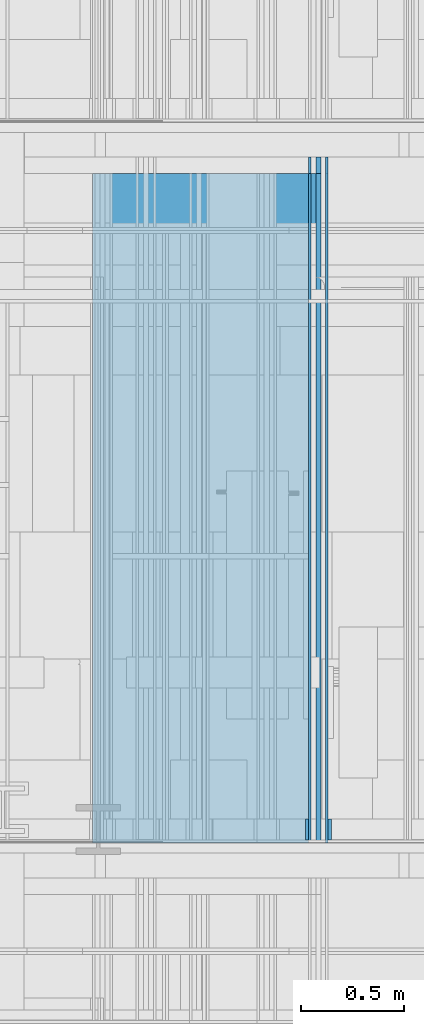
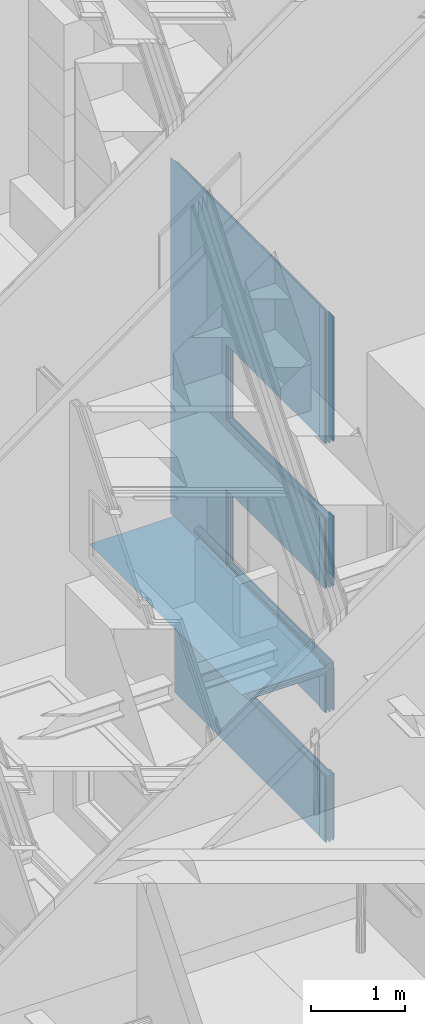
# One storey, part 110 of 583: 17 building element parts, 5 openings, 3 elements without a shape of their own.
"""IFC2X3 building model written with IfcOpenShell, lengths in metres."""

from ifc_helpers import new_model, entity, si_unit, converted_unit, derived_unit, money_unit, direction, frame, frame_2d, origin_with_axes, place, context, subcontext, project, spatial, polyline, rectangle, outline, extrude, material, type_object, element, aggregate, save


model = new_model("IFC2X3")

# Units and contexts
model_context = context("Model", 3, precision=1e-05, world=origin_with_axes(), true_north=direction((0.0, 1.0)))
body_context = subcontext(model_context, "Body", "Model", "MODEL_VIEW", scale=1.0)
ifc_project = project(units=[si_unit("LENGTHUNIT", "METRE"), si_unit("AREAUNIT", "SQUARE_METRE"), si_unit("VOLUMEUNIT", "CUBIC_METRE"), si_unit("ABSORBEDDOSEUNIT", "GRAY"), si_unit("AMOUNTOFSUBSTANCEUNIT", "MOLE"), si_unit("DOSEEQUIVALENTUNIT", "SIEVERT"), si_unit("ELECTRICCAPACITANCEUNIT", "FARAD"), si_unit("ELECTRICCHARGEUNIT", "COULOMB"), si_unit("ELECTRICCONDUCTANCEUNIT", "SIEMENS"), si_unit("ELECTRICCURRENTUNIT", "AMPERE"), si_unit("ELECTRICRESISTANCEUNIT", "OHM"), si_unit("ELECTRICVOLTAGEUNIT", "VOLT"), si_unit("ENERGYUNIT", "JOULE"), si_unit("FORCEUNIT", "NEWTON"), si_unit("FREQUENCYUNIT", "HERTZ"), si_unit("ILLUMINANCEUNIT", "LUX"), si_unit("INDUCTANCEUNIT", "HENRY"), si_unit("LUMINOUSFLUXUNIT", "LUMEN"), si_unit("LUMINOUSINTENSITYUNIT", "CANDELA"), si_unit("MAGNETICFLUXDENSITYUNIT", "TESLA"), si_unit("MAGNETICFLUXUNIT", "WEBER"), si_unit("MASSUNIT", "GRAM"), converted_unit("PLANEANGLEUNIT", "degree", entity("IfcReal", 0.0174532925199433), si_unit("PLANEANGLEUNIT", "RADIAN"), dimensions=[0, 0, 0, 0, 0, 0, 0]), si_unit("POWERUNIT", "WATT"), si_unit("PRESSUREUNIT", "PASCAL"), si_unit("RADIOACTIVITYUNIT", "BECQUEREL"), si_unit("SOLIDANGLEUNIT", "STERADIAN"), si_unit("THERMODYNAMICTEMPERATUREUNIT", "KELVIN"), si_unit("TIMEUNIT", "SECOND"), derived_unit("ACCELERATIONUNIT", [(si_unit("LENGTHUNIT", "METRE"), 1), (si_unit("TIMEUNIT", "SECOND"), -2)]), derived_unit("ANGULARVELOCITYUNIT", [(converted_unit("PLANEANGLEUNIT", "degree", entity("IfcReal", 0.0174532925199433), si_unit("PLANEANGLEUNIT", "RADIAN"), dimensions=[0, 0, 0, 0, 0, 0, 0]), 1), (si_unit("TIMEUNIT", "SECOND"), -1)]), derived_unit("CURVATUREUNIT", [(converted_unit("PLANEANGLEUNIT", "degree", entity("IfcReal", 0.0174532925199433), si_unit("PLANEANGLEUNIT", "RADIAN"), dimensions=[0, 0, 0, 0, 0, 0, 0]), 1), (si_unit("LENGTHUNIT", "METRE"), -1)]), derived_unit("DYNAMICVISCOSITYUNIT", [(si_unit("PRESSUREUNIT", "PASCAL"), 1), (si_unit("TIMEUNIT", "SECOND"), 1)]), derived_unit("HEATFLUXDENSITYUNIT", [(si_unit("POWERUNIT", "WATT"), 1), (si_unit("LENGTHUNIT", "METRE"), -2)]), derived_unit("HEATINGVALUEUNIT", [(si_unit("ENERGYUNIT", "JOULE"), 1), (si_unit("MASSUNIT", "GRAM"), -1)]), derived_unit("INTEGERCOUNTRATEUNIT", [(si_unit("TIMEUNIT", "SECOND"), -1)]), derived_unit("IONCONCENTRATIONUNIT", [(si_unit("MASSUNIT", "GRAM"), 1), (si_unit("VOLUMEUNIT", "CUBIC_METRE"), -1)]), derived_unit("ISOTHERMALMOISTURECAPACITYUNIT", [(si_unit("VOLUMEUNIT", "CUBIC_METRE"), 1), (si_unit("MASSUNIT", "GRAM"), -1)]), derived_unit("KINEMATICVISCOSITYUNIT", [(si_unit("AREAUNIT", "SQUARE_METRE"), 1), (si_unit("TIMEUNIT", "SECOND"), -1)]), derived_unit("LINEARFORCEUNIT", [(si_unit("FORCEUNIT", "NEWTON"), 1), (si_unit("LENGTHUNIT", "METRE"), -1)]), derived_unit("LINEARMOMENTUNIT", [(si_unit("FORCEUNIT", "NEWTON"), 1), (si_unit("LENGTHUNIT", "METRE"), -1)]), derived_unit("LINEARSTIFFNESSUNIT", [(si_unit("FORCEUNIT", "NEWTON"), 1), (si_unit("LENGTHUNIT", "METRE"), -1)]), derived_unit("LINEARVELOCITYUNIT", [(si_unit("LENGTHUNIT", "METRE"), 1), (si_unit("TIMEUNIT", "SECOND"), -1)]), derived_unit("LUMINOUSINTENSITYDISTRIBUTIONUNIT", [(si_unit("LUMINOUSINTENSITYUNIT", "CANDELA"), 1), (si_unit("LUMINOUSFLUXUNIT", "LUMEN"), -1)]), derived_unit("MASSDENSITYUNIT", [(si_unit("MASSUNIT", "GRAM"), 1), (si_unit("VOLUMEUNIT", "CUBIC_METRE"), -1)]), derived_unit("MASSFLOWRATEUNIT", [(si_unit("MASSUNIT", "GRAM"), 1), (si_unit("TIMEUNIT", "SECOND"), -1)]), derived_unit("MASSPERLENGTHUNIT", [(si_unit("MASSUNIT", "GRAM"), 1), (si_unit("LENGTHUNIT", "METRE"), -1)]), derived_unit("MODULUSOFELASTICITYUNIT", [(si_unit("FORCEUNIT", "NEWTON"), 1), (si_unit("AREAUNIT", "SQUARE_METRE"), -1)]), derived_unit("MODULUSOFLINEARSUBGRADEREACTIONUNIT", [(si_unit("FORCEUNIT", "NEWTON"), 1), (si_unit("LENGTHUNIT", "METRE"), -2)]), derived_unit("MODULUSOFROTATIONALSUBGRADEREACTIONUNIT", [(si_unit("FORCEUNIT", "NEWTON"), 1), (si_unit("LENGTHUNIT", "METRE"), 1)]), derived_unit("MODULUSOFSUBGRADEREACTIONUNIT", [(si_unit("FORCEUNIT", "NEWTON"), 1), (si_unit("VOLUMEUNIT", "CUBIC_METRE"), -1)]), derived_unit("MOISTUREDIFFUSIVITYUNIT", [(si_unit("VOLUMEUNIT", "CUBIC_METRE"), 1), (si_unit("TIMEUNIT", "SECOND"), -1)]), derived_unit("MOLECULARWEIGHTUNIT", [(si_unit("MASSUNIT", "GRAM"), 1), (si_unit("AMOUNTOFSUBSTANCEUNIT", "MOLE"), -1)]), derived_unit("PLANARFORCEUNIT", [(si_unit("FORCEUNIT", "NEWTON"), 1), (si_unit("LENGTHUNIT", "METRE"), -2)]), derived_unit("ROTATIONALFREQUENCYUNIT", [(si_unit("TIMEUNIT", "SECOND"), -1)]), derived_unit("ROTATIONALMASSUNIT", [(si_unit("MASSUNIT", "GRAM"), 1), (si_unit("LENGTHUNIT", "METRE"), 2)]), derived_unit("ROTATIONALSTIFFNESSUNIT", [(si_unit("FORCEUNIT", "NEWTON"), 1), (si_unit("LENGTHUNIT", "METRE"), 1), (converted_unit("PLANEANGLEUNIT", "degree", entity("IfcReal", 0.0174532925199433), si_unit("PLANEANGLEUNIT", "RADIAN"), dimensions=[0, 0, 0, 0, 0, 0, 0]), -1)]), derived_unit("SECTIONAREAINTEGRALUNIT", [(si_unit("LENGTHUNIT", "METRE"), 5)]), derived_unit("SECTIONMODULUSUNIT", [(si_unit("LENGTHUNIT", "METRE"), 3)]), derived_unit("SHEARMODULUSUNIT", [(si_unit("FORCEUNIT", "NEWTON"), 1), (si_unit("AREAUNIT", "SQUARE_METRE"), -1)]), derived_unit("SOUNDPOWERUNIT", [(si_unit("ENERGYUNIT", "JOULE"), 1), (si_unit("TIMEUNIT", "SECOND"), -1)]), derived_unit("SPECIFICHEATCAPACITYUNIT", [(si_unit("FORCEUNIT", "NEWTON"), 1), (si_unit("MASSUNIT", "GRAM"), -1), (si_unit("THERMODYNAMICTEMPERATUREUNIT", "KELVIN"), -1)]), derived_unit("TEMPERATUREGRADIENTUNIT", [(si_unit("THERMODYNAMICTEMPERATUREUNIT", "KELVIN"), 1), (si_unit("LENGTHUNIT", "METRE"), -1)]), derived_unit("THERMALADMITTANCEUNIT", [(si_unit("POWERUNIT", "WATT"), 1), (si_unit("AREAUNIT", "SQUARE_METRE"), -1), (si_unit("THERMODYNAMICTEMPERATUREUNIT", "KELVIN"), -1)]), derived_unit("THERMALCONDUCTANCEUNIT", [(si_unit("POWERUNIT", "WATT"), 1), (si_unit("LENGTHUNIT", "METRE"), -1), (si_unit("THERMODYNAMICTEMPERATUREUNIT", "KELVIN"), -1)]), derived_unit("THERMALEXPANSIONCOEFFICIENTUNIT", [(si_unit("THERMODYNAMICTEMPERATUREUNIT", "KELVIN"), -1)]), derived_unit("THERMALRESISTANCEUNIT", [(si_unit("AREAUNIT", "SQUARE_METRE"), 1), (si_unit("POWERUNIT", "WATT"), -1)]), derived_unit("THERMALTRANSMITTANCEUNIT", [(si_unit("POWERUNIT", "WATT"), 1), (si_unit("AREAUNIT", "SQUARE_METRE"), -1), (si_unit("THERMODYNAMICTEMPERATUREUNIT", "KELVIN"), -1)]), derived_unit("TORQUEUNIT", [(si_unit("FORCEUNIT", "NEWTON"), 1), (si_unit("LENGTHUNIT", "METRE"), 1)]), derived_unit("VAPORPERMEABILITYUNIT", [(si_unit("MASSUNIT", "GRAM"), 1), (si_unit("TIMEUNIT", "SECOND"), -1)]), derived_unit("VOLUMETRICFLOWRATEUNIT", [(si_unit("VOLUMEUNIT", "CUBIC_METRE"), 1), (si_unit("TIMEUNIT", "SECOND"), -1)]), derived_unit("WARPINGCONSTANTUNIT", [(si_unit("LENGTHUNIT", "METRE"), 6)]), derived_unit("WARPINGMOMENTUNIT", [(si_unit("FORCEUNIT", "NEWTON"), 1), (si_unit("LENGTHUNIT", "METRE"), 2)]), money_unit("GBP")], contexts=[model_context])

# Site, building, storey
site_placement = place(None, origin_with_axes())
site = spatial("IfcSite", under=ifc_project, at=site_placement, Name="Site", CompositionType="ELEMENT")
building_placement = place(site_placement, origin_with_axes())
building = spatial("IfcBuilding", under=site, at=building_placement, Name="Building01", CompositionType="ELEMENT")
storey_placement = place(building_placement, frame((0.0, 0.0, 20.78), z_axis=(0.0, 0.0, 1.0), x_axis=(1.0, 0.0, 0.0)))
storey = spatial("IfcBuildingStorey", under=building, at=storey_placement, Name="RL", CompositionType="ELEMENT", Elevation=20.78)

# Wall, opening, building element parts
wall_type = type_object("IfcWallType", Name="SHE_A-Walls_Type05a_Partition_95mm_tall", PredefinedType="NOTDEFINED")
wall_1_placement = place(storey_placement, frame((10.63, 8.64, -2.84), z_axis=(0.0, 1.0, 0.0), x_axis=(0.0, 0.0, -1.0)))
wall_1 = element("IfcWall", 1, at=wall_1_placement, inside=storey, type_object=wall_type, Name="5A", ObjectType="SHE_A-Walls_Type05a_Partition_95mm_tall")
opening_1_placement = place(wall_1_placement, frame((0.540552, -0.035, 0.0), z_axis=(0.0, 0.0, 1.0), x_axis=(1.0, 0.0, 0.0)))
element("IfcOpeningElement", 2, at=opening_1_placement, cuts=wall_1, Name="Opening", ObjectType="Opening", context=body_context, shape_type="SweptSolid", body=[
    extrude(rectangle(XDim=2.142, YDim=0.834, at=frame_2d((0.417, 1.071), x_axis=(0.0, -1.0))), frame((0.0, 4.32825, 0.0), z_axis=(0.0, -1.0, 0.0), x_axis=(1.0, 0.0, 0.0)), (0.0, 0.0, 1.0), 8.6565),
])
ifc_material_1 = material(Name="A_BSUK_Insulation")
placement_1 = place(wall_1_placement, origin_with_axes())
building_element_part_1 = element("IfcBuildingElementPart", 3, at=placement_1, material=ifc_material_1, Name="1", context=body_context, shape_type="SweptSolid", body=[
    extrude(rectangle(XDim=2.231868, YDim=0.025, at=frame_2d((1.115934, 0.0125), x_axis=(-1.0, 0.0))), origin_with_axes(), (0.0, 0.0, 1.0), 3.24),
])
ifc_material_2 = material(Name="A_BSUK_Walls_Timber")
building_element_part_2 = element("IfcBuildingElementPart", 4, at=placement_1, material=ifc_material_2, Name="2", context=body_context, shape_type="SweptSolid", body=[
    extrude(rectangle(XDim=2.181868, YDim=0.015, at=frame_2d((1.125934, 0.0675), x_axis=(-1.0, 0.0))), frame((0.0, 0.0, 0.015), z_axis=(0.0, 0.0, 1.0), x_axis=(1.0, 0.0, 0.0)), (0.0, 0.0, 1.0), 0.1),
])
building_element_part_3 = element("IfcBuildingElementPart", 5, at=placement_1, material=ifc_material_2, Name="3", context=body_context, shape_type="SweptSolid", body=[
    extrude(rectangle(XDim=2.216868, YDim=0.015, at=frame_2d((1.108434, -0.0425), x_axis=(-1.0, 0.0))), frame((0.0, 0.0, 0.015), z_axis=(0.0, 0.0, 1.0), x_axis=(1.0, 0.0, 0.0)), (0.0, 0.0, 1.0), 0.1),
])
ifc_material_3 = material(Name="A_BSUK_WallInternal_Finishes_Plasterboard")
building_element_part_4 = element("IfcBuildingElementPart", 6, at=placement_1, material=ifc_material_3, Name="4", context=body_context, shape_type="SweptSolid", body=[
    extrude(rectangle(XDim=2.208868, YDim=0.012, at=frame_2d((1.127434, 0.054), x_axis=(-1.0, 0.0))), origin_with_axes(), (0.0, 0.0, 1.0), 3.24),
])
building_element_part_5 = element("IfcBuildingElementPart", 7, at=placement_1, material=ifc_material_3, Name="5", context=body_context, shape_type="SweptSolid", body=[
    extrude(rectangle(XDim=2.231868, YDim=0.012, at=frame_2d((1.115934, -0.029), x_axis=(-1.0, 0.0))), origin_with_axes(), (0.0, 0.0, 1.0), 3.24),
])
aggregate(wall_1, [building_element_part_1, building_element_part_2, building_element_part_3, building_element_part_4, building_element_part_5])

# Wall, building element parts
wall_2_placement = place(storey_placement, frame((9.585, 8.64, -2.84), z_axis=(0.0, 1.0, 0.0), x_axis=(1.0, 0.0, 0.0)))
wall_2 = element("IfcWall", 8, at=wall_2_placement, inside=storey, type_object=wall_type, Name="5A", ObjectType="SHE_A-Walls_Type05a_Partition_95mm_tall")
placement_2 = place(wall_2_placement, origin_with_axes())
building_element_part_6 = element("IfcBuildingElementPart", 9, at=placement_2, material=ifc_material_1, Name="1", context=body_context, shape_type="SweptSolid", body=[
    extrude(outline(polyline([(1.02, 0.0), (0.0, 0.0), (-0.025, -0.025), (1.02, -0.025), (1.02, 0.0)])), origin_with_axes(), (0.0, 0.0, 1.0), 3.24),
])
building_element_part_7 = element("IfcBuildingElementPart", 10, at=placement_2, material=ifc_material_3, Name="4", context=body_context, shape_type="SweptSolid", body=[
    extrude(outline(polyline([(0.985, 0.035), (0.035, 0.035), (0.023, 0.023), (0.985, 0.023), (0.985, 0.035)])), origin_with_axes(), (0.0, 0.0, 1.0), 3.24),
])
building_element_part_8 = element("IfcBuildingElementPart", 11, at=placement_2, material=ifc_material_3, Name="5", context=body_context, shape_type="SweptSolid", body=[
    extrude(outline(polyline([(0.985, -0.048), (-0.048, -0.048), (-0.06, -0.06), (0.985, -0.06), (0.985, -0.048)])), origin_with_axes(), (0.0, 0.0, 1.0), 3.24),
])
aggregate(wall_2, [building_element_part_6, building_element_part_7, building_element_part_8])

# Wall, openings, building element parts
wall_3_placement = place(storey_placement, frame((10.605, 8.64, -2.84), z_axis=(0.0, 1.0, 0.0), x_axis=(0.0, 0.0, 1.0)))
wall_3 = element("IfcWall", 12, at=wall_3_placement, inside=storey, type_object=wall_type, Name="5A", ObjectType="SHE_A-Walls_Type05a_Partition_95mm_tall")
opening_2_placement = place(wall_3_placement, frame((0.093398, 0.005, -0.015), z_axis=(0.0, 0.0, 1.0), x_axis=(1.0, 0.0, 0.0)))
element("IfcOpeningElement", 13, at=opening_2_placement, cuts=wall_3, Name="Opening", ObjectType="Opening", context=body_context, shape_type="SweptSolid", body=[
    extrude(rectangle(XDim=0.984, YDim=2.142, at=frame_2d((-0.492, 1.071), x_axis=(1.0, 0.0))), frame((0.0, -0.03, 0.0), z_axis=(0.0, 1.0, 0.0), x_axis=(-1.0, 0.0, 0.0)), (0.0, 0.0, 1.0), 0.06),
])
opening_3_placement = place(wall_3_placement, frame((1.978284, 0.005, -0.015), z_axis=(0.0, 0.0, 1.0), x_axis=(1.0, 0.0, 0.0)))
element("IfcOpeningElement", 14, at=opening_3_placement, cuts=wall_3, Name="Opening", ObjectType="Opening", context=body_context, shape_type="SweptSolid", body=[
    extrude(rectangle(XDim=0.984, YDim=2.142, at=frame_2d((-0.492, 1.071), x_axis=(-1.0, 0.0))), frame((0.0, -0.03, 0.0), z_axis=(0.0, 1.0, 0.0), x_axis=(-1.0, 0.0, 0.0)), (0.0, 0.0, 1.0), 0.06),
])
opening_4_placement = place(wall_3_placement, frame((0.093398, 0.045, 0.0), z_axis=(0.0, 0.0, 1.0), x_axis=(1.0, 0.0, 0.0)))
element("IfcOpeningElement", 15, at=opening_4_placement, cuts=wall_3, Name="Opening", ObjectType="Opening", context=body_context, shape_type="SweptSolid", body=[
    extrude(rectangle(XDim=2.142, YDim=0.984, at=frame_2d((-0.492, 1.071), x_axis=(0.0, -1.0))), frame((0.0, -6.285124, 0.0), z_axis=(0.0, 1.0, 0.0), x_axis=(-1.0, 0.0, 0.0)), (0.0, 0.0, 1.0), 12.570247),
])
opening_5_placement = place(wall_3_placement, frame((1.978284, 0.045, 0.0), z_axis=(0.0, 0.0, 1.0), x_axis=(1.0, 0.0, 0.0)))
element("IfcOpeningElement", 16, at=opening_5_placement, cuts=wall_3, Name="Opening", ObjectType="Opening", context=body_context, shape_type="SweptSolid", body=[
    extrude(rectangle(XDim=2.142, YDim=0.984, at=frame_2d((-0.492, 1.071), x_axis=(0.0, -1.0))), frame((0.0, -6.285124, 0.0), z_axis=(0.0, 1.0, 0.0), x_axis=(-1.0, 0.0, 0.0)), (0.0, 0.0, 1.0), 12.570247),
])
placement_3 = place(wall_3_placement, origin_with_axes())
building_element_part_9 = element("IfcBuildingElementPart", 17, at=placement_3, material=ifc_material_1, Name="1", context=body_context, shape_type="SweptSolid", body=[
    extrude(rectangle(XDim=4.625, YDim=0.025, at=frame_2d((2.3125, 0.0125), x_axis=(-1.0, 0.0))), origin_with_axes(), (0.0, 0.0, 1.0), 3.32),
])
building_element_part_10 = element("IfcBuildingElementPart", 18, at=placement_3, material=ifc_material_2, Name="2", context=body_context, shape_type="SweptSolid", body=[
    extrude(rectangle(XDim=0.015, YDim=0.881, at=frame_2d((1.510784, 0.0675), x_axis=(0.0, -1.0))), frame((0.0, 0.0, 0.015), z_axis=(0.0, 0.0, 1.0), x_axis=(1.0, 0.0, 0.0)), (0.0, 0.0, 1.0), 0.1),
])
building_element_part_11 = element("IfcBuildingElementPart", 19, at=placement_3, material=ifc_material_2, Name="3", context=body_context, shape_type="SweptSolid", body=[
    extrude(outline(polyline([(4.685, -0.035), (0.06, -0.035), (0.06, -0.05), (4.7, -0.05), (4.685, -0.035)])), frame((0.0, 0.0, 0.015), z_axis=(0.0, 0.0, 1.0), x_axis=(1.0, 0.0, 0.0)), (0.0, 0.0, 1.0), 0.1),
])
building_element_part_12 = element("IfcBuildingElementPart", 20, at=placement_3, material=ifc_material_2, Name="4", context=body_context, shape_type="SweptSolid", body=[
    extrude(outline(polyline([(4.575, 0.075), (1.070284, 0.075), (1.085284, 0.06), (4.59, 0.06), (4.575, 0.075)])), frame((0.0, 0.0, 0.015), z_axis=(0.0, 0.0, 1.0), x_axis=(1.0, 0.0, 0.0)), (0.0, 0.0, 1.0), 0.1),
])
building_element_part_13 = element("IfcBuildingElementPart", 21, at=placement_3, material=ifc_material_2, Name="5", context=body_context, shape_type="SweptSolid", body=[
    extrude(outline(polyline([(4.575, 0.075), (1.180284, 0.075), (1.180284, 0.06), (4.59, 0.06), (4.575, 0.075)])), frame((0.0, 0.0, 0.015), z_axis=(0.0, 0.0, 1.0), x_axis=(1.0, 0.0, 0.0)), (0.0, 0.0, 1.0), 0.1),
])
building_element_part_14 = element("IfcBuildingElementPart", 22, at=placement_3, material=ifc_material_2, Name="6", context=body_context, shape_type="SweptSolid", body=[
    extrude(outline(polyline([(4.575, 0.075), (2.920284, 0.075), (2.920284, 0.06), (4.59, 0.06), (4.575, 0.075)])), frame((0.0, 0.0, 0.015), z_axis=(0.0, 0.0, 1.0), x_axis=(1.0, 0.0, 0.0)), (0.0, 0.0, 1.0), 0.1),
])
building_element_part_15 = element("IfcBuildingElementPart", 23, at=placement_3, material=ifc_material_3, Name="7", context=body_context, shape_type="SweptSolid", body=[
    extrude(rectangle(XDim=1.097284, YDim=0.012, at=frame_2d((0.548642, 0.054), x_axis=(-1.0, 0.0))), origin_with_axes(), (0.0, 0.0, 1.0), 3.32),
])
building_element_part_16 = element("IfcBuildingElementPart", 24, at=placement_3, material=ifc_material_3, Name="8", context=body_context, shape_type="SweptSolid", body=[
    extrude(outline(polyline([(4.673, -0.023), (0.048, -0.023), (0.048, -0.035), (4.685, -0.035), (4.673, -0.023)])), origin_with_axes(), (0.0, 0.0, 1.0), 3.32),
])
building_element_part_17 = element("IfcBuildingElementPart", 25, at=placement_3, material=ifc_material_3, Name="9", context=body_context, shape_type="SweptSolid", body=[
    extrude(outline(polyline([(4.59, 0.06), (1.168284, 0.06), (1.168284, 0.048), (4.602, 0.048), (4.59, 0.06)])), origin_with_axes(), (0.0, 0.0, 1.0), 3.32),
])
aggregate(wall_3, [building_element_part_9, building_element_part_10, building_element_part_11, building_element_part_12, building_element_part_13, building_element_part_14, building_element_part_15, building_element_part_16, building_element_part_17])

save(model, "model.ifc")
